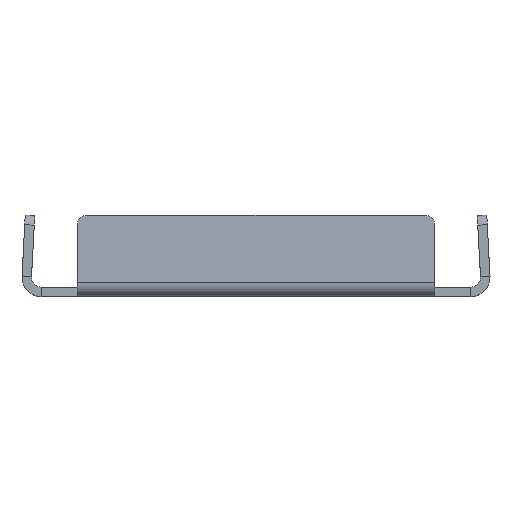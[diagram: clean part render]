
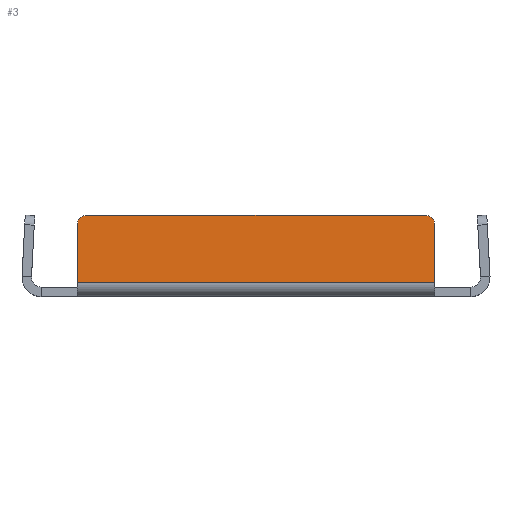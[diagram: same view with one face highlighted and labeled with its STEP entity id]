
A CAD part, top view. The second image highlights one B-rep face of the part: STEP entity #3.
In plain terms, the highlighted planar face has unit normal (0, 0.052, 0.999).
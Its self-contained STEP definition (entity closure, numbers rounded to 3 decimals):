
#3 = ADVANCED_FACE ( 'NONE', ( #9509 ), #9126, .F. ) ;
#727 = DIRECTION ( 'NONE',  ( -1., 0., 0. ) ) ;
#851 = VECTOR ( 'NONE', #8797, 1000. ) ;
#977 = CARTESIAN_POINT ( 'NONE',  ( 71., 26.174, 40.714 ) ) ;
#1193 = ORIENTED_EDGE ( 'NONE', *, *, #1723, .T. ) ;
#1249 = CARTESIAN_POINT ( 'NONE',  ( 75., 26.174, 40.714 ) ) ;
#1284 = CARTESIAN_POINT ( 'NONE',  ( 0., 2.117, 41.975 ) ) ;
#1467 = EDGE_CURVE ( 'NONE', #6873, #8426, #7458, .T. ) ;
#1637 = LINE ( 'NONE', #7751, #7576 ) ;
#1723 = EDGE_CURVE ( 'NONE', #2312, #6873, #1998, .T. ) ;
#1848 = CARTESIAN_POINT ( 'NONE',  ( 0., 30.168, 40.505 ) ) ;
#1863 = LINE ( 'NONE', #8344, #851 ) ;
#1998 = CIRCLE ( 'NONE', #3372, 4. ) ;
#2292 = CARTESIAN_POINT ( 'NONE',  ( -75., 26.174, 40.714 ) ) ;
#2312 = VERTEX_POINT ( 'NONE', #9478 ) ;
#2355 = VECTOR ( 'NONE', #4267, 1000. ) ;
#2725 = CARTESIAN_POINT ( 'NONE',  ( 75., 1.788, 41.992 ) ) ;
#2874 = LINE ( 'NONE', #1848, #2355 ) ;
#3209 = AXIS2_PLACEMENT_3D ( 'NONE', #977, #3836, #3866 ) ;
#3329 = CARTESIAN_POINT ( 'NONE',  ( -71., 26.174, 40.714 ) ) ;
#3372 = AXIS2_PLACEMENT_3D ( 'NONE', #3329, #7583, #8696 ) ;
#3428 = CIRCLE ( 'NONE', #3209, 4. ) ;
#3836 = DIRECTION ( 'NONE',  ( 0., 0.052, 0.999 ) ) ;
#3866 = DIRECTION ( 'NONE',  ( 0., 0.999, -0.052 ) ) ;
#3893 = VERTEX_POINT ( 'NONE', #1249 ) ;
#4079 = ORIENTED_EDGE ( 'NONE', *, *, #8316, .T. ) ;
#4267 = DIRECTION ( 'NONE',  ( -1., 0., 0. ) ) ;
#4826 = EDGE_CURVE ( 'NONE', #3893, #8714, #1863, .T. ) ;
#5114 = EDGE_CURVE ( 'NONE', #8714, #8426, #1637, .T. ) ;
#5273 = AXIS2_PLACEMENT_3D ( 'NONE', #1284, #8499, #6872 ) ;
#5337 = DIRECTION ( 'NONE',  ( 0., -0.999, 0.052 ) ) ;
#5478 = ORIENTED_EDGE ( 'NONE', *, *, #5114, .F. ) ;
#6666 = ORIENTED_EDGE ( 'NONE', *, *, #7896, .T. ) ;
#6742 = ORIENTED_EDGE ( 'NONE', *, *, #4826, .F. ) ;
#6872 = DIRECTION ( 'NONE',  ( 0., 0.999, -0.052 ) ) ;
#6873 = VERTEX_POINT ( 'NONE', #2292 ) ;
#7227 = CARTESIAN_POINT ( 'NONE',  ( -75., 1.788, 41.992 ) ) ;
#7319 = CARTESIAN_POINT ( 'NONE',  ( -75., 2.117, 41.975 ) ) ;
#7458 = LINE ( 'NONE', #7319, #7747 ) ;
#7576 = VECTOR ( 'NONE', #727, 1000. ) ;
#7583 = DIRECTION ( 'NONE',  ( 0., 0.052, 0.999 ) ) ;
#7747 = VECTOR ( 'NONE', #5337, 1000. ) ;
#7751 = CARTESIAN_POINT ( 'NONE',  ( -90.285, 1.788, 41.992 ) ) ;
#7896 = EDGE_CURVE ( 'NONE', #8803, #2312, #2874, .T. ) ;
#8316 = EDGE_CURVE ( 'NONE', #3893, #8803, #3428, .T. ) ;
#8344 = CARTESIAN_POINT ( 'NONE',  ( 75., 2.117, 41.975 ) ) ;
#8367 = ORIENTED_EDGE ( 'NONE', *, *, #1467, .T. ) ;
#8426 = VERTEX_POINT ( 'NONE', #7227 ) ;
#8499 = DIRECTION ( 'NONE',  ( 0., -0.052, -0.999 ) ) ;
#8696 = DIRECTION ( 'NONE',  ( 0., 0.999, -0.052 ) ) ;
#8714 = VERTEX_POINT ( 'NONE', #2725 ) ;
#8797 = DIRECTION ( 'NONE',  ( 0., -0.999, 0.052 ) ) ;
#8803 = VERTEX_POINT ( 'NONE', #8884 ) ;
#8884 = CARTESIAN_POINT ( 'NONE',  ( 71., 30.168, 40.505 ) ) ;
#9010 = EDGE_LOOP ( 'NONE', ( #6742, #4079, #6666, #1193, #8367, #5478 ) ) ;
#9126 = PLANE ( 'NONE',  #5273 ) ;
#9478 = CARTESIAN_POINT ( 'NONE',  ( -71., 30.168, 40.505 ) ) ;
#9509 = FACE_OUTER_BOUND ( 'NONE', #9010, .T. ) ;
